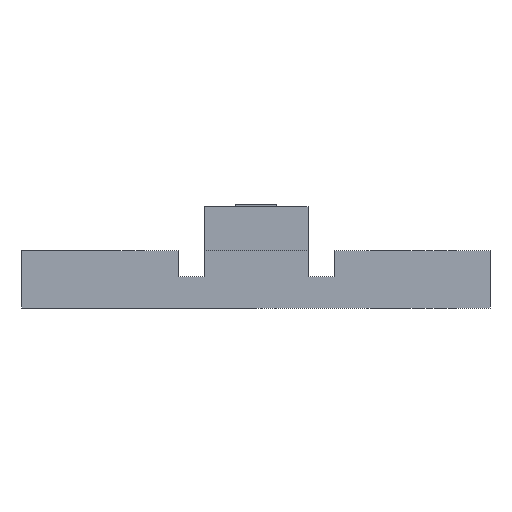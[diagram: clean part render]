
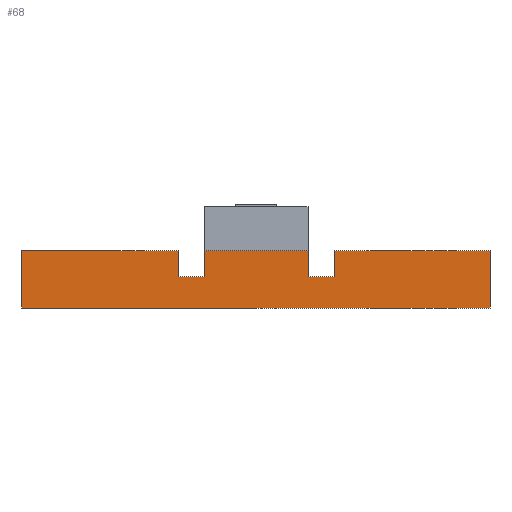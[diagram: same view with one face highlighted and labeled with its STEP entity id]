
A CAD part, front view. The second image highlights one B-rep face of the part: STEP entity #68.
In plain terms, the highlighted planar face has unit normal (0, -1, 0).
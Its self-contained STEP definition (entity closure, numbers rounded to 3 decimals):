
#68=ADVANCED_FACE('',(#374),#376,.T.);
#374=FACE_BOUND('',#375,.T.);
#375=EDGE_LOOP('',(#624,#625,#626,#627,#628,#629,#630,#631,#632,#633,#634,#635));
#376=PLANE('',#377);
#377=AXIS2_PLACEMENT_3D('',#378,#379,#380);
#378=CARTESIAN_POINT('',(-9.,-3.,0.));
#379=DIRECTION('',(0.,-1.,0.));
#380=DIRECTION('',(1.,0.,0.));
#624=ORIENTED_EDGE('',*,*,#792,.T.);
#625=ORIENTED_EDGE('',*,*,#793,.T.);
#626=ORIENTED_EDGE('',*,*,#794,.F.);
#627=ORIENTED_EDGE('',*,*,#795,.T.);
#628=ORIENTED_EDGE('',*,*,#796,.T.);
#629=ORIENTED_EDGE('',*,*,#797,.T.);
#630=ORIENTED_EDGE('',*,*,#798,.F.);
#631=ORIENTED_EDGE('',*,*,#799,.F.);
#632=ORIENTED_EDGE('',*,*,#800,.T.);
#633=ORIENTED_EDGE('',*,*,#801,.T.);
#634=ORIENTED_EDGE('',*,*,#802,.F.);
#635=ORIENTED_EDGE('',*,*,#803,.T.);
#792=EDGE_CURVE('',#876,#877,#878,.F.);
#793=EDGE_CURVE('',#877,#879,#880,.F.);
#794=EDGE_CURVE('',#881,#879,#882,.T.);
#795=EDGE_CURVE('',#881,#883,#884,.F.);
#796=EDGE_CURVE('',#883,#885,#886,.F.);
#797=EDGE_CURVE('',#885,#887,#888,.F.);
#798=EDGE_CURVE('',#889,#887,#890,.T.);
#799=EDGE_CURVE('',#891,#889,#892,.T.);
#800=EDGE_CURVE('',#891,#893,#894,.T.);
#801=EDGE_CURVE('',#893,#895,#896,.T.);
#802=EDGE_CURVE('',#897,#895,#898,.T.);
#803=EDGE_CURVE('',#897,#876,#899,.F.);
#876=VERTEX_POINT('',#1016);
#877=VERTEX_POINT('',#1017);
#878=LINE('',#1018,#1019);
#879=VERTEX_POINT('',#1021);
#880=LINE('',#1022,#1023);
#881=VERTEX_POINT('',#1025);
#882=LINE('',#1026,#1027);
#883=VERTEX_POINT('',#1029);
#884=LINE('',#1030,#1031);
#885=VERTEX_POINT('',#1033);
#886=LINE('',#1034,#1035);
#887=VERTEX_POINT('',#1037);
#888=LINE('',#1038,#1039);
#889=VERTEX_POINT('',#1041);
#890=LINE('',#1042,#1043);
#891=VERTEX_POINT('',#1045);
#892=LINE('',#1046,#1047);
#893=VERTEX_POINT('',#1049);
#894=LINE('',#1050,#1051);
#895=VERTEX_POINT('',#1053);
#896=LINE('',#1054,#1055);
#897=VERTEX_POINT('',#1057);
#898=LINE('',#1058,#1059);
#899=LINE('',#1061,#1062);
#1016=CARTESIAN_POINT('',(3.,-3.,1.2));
#1017=CARTESIAN_POINT('',(2.,-3.,1.2));
#1018=CARTESIAN_POINT('',(2.,-3.,1.2));
#1019=VECTOR('',#1020,1.);
#1020=DIRECTION('',(1.,0.,0.));
#1021=CARTESIAN_POINT('',(2.,-3.,2.2));
#1022=CARTESIAN_POINT('',(2.,-3.,2.2));
#1023=VECTOR('',#1024,1.);
#1024=DIRECTION('',(0.,0.,-1.));
#1025=CARTESIAN_POINT('',(-2.,-3.,2.2));
#1026=CARTESIAN_POINT('',(-2.,-3.,2.2));
#1027=VECTOR('',#1028,1.);
#1028=DIRECTION('',(1.,0.,0.));
#1029=CARTESIAN_POINT('',(-2.,-3.,1.2));
#1030=CARTESIAN_POINT('',(-2.,-3.,1.2));
#1031=VECTOR('',#1032,1.);
#1032=DIRECTION('',(0.,0.,1.));
#1033=CARTESIAN_POINT('',(-3.,-3.,1.2));
#1034=CARTESIAN_POINT('',(-3.,-3.,1.2));
#1035=VECTOR('',#1036,1.);
#1036=DIRECTION('',(1.,0.,0.));
#1037=CARTESIAN_POINT('',(-3.,-3.,2.2));
#1038=CARTESIAN_POINT('',(-3.,-3.,2.2));
#1039=VECTOR('',#1040,1.);
#1040=DIRECTION('',(0.,0.,-1.));
#1041=CARTESIAN_POINT('',(-9.,-3.,2.2));
#1042=CARTESIAN_POINT('',(-9.,-3.,2.2));
#1043=VECTOR('',#1044,1.);
#1044=DIRECTION('',(1.,0.,0.));
#1045=CARTESIAN_POINT('',(-9.,-3.,0.));
#1046=CARTESIAN_POINT('',(-9.,-3.,0.));
#1047=VECTOR('',#1048,1.);
#1048=DIRECTION('',(0.,0.,1.));
#1049=CARTESIAN_POINT('',(9.,-3.,0.));
#1050=CARTESIAN_POINT('',(-9.,-3.,0.));
#1051=VECTOR('',#1052,1.);
#1052=DIRECTION('',(1.,0.,0.));
#1053=CARTESIAN_POINT('',(9.,-3.,2.2));
#1054=CARTESIAN_POINT('',(9.,-3.,0.));
#1055=VECTOR('',#1056,1.);
#1056=DIRECTION('',(0.,0.,1.));
#1057=CARTESIAN_POINT('',(3.,-3.,2.2));
#1058=CARTESIAN_POINT('',(3.,-3.,2.2));
#1059=VECTOR('',#1060,1.);
#1060=DIRECTION('',(1.,0.,0.));
#1061=CARTESIAN_POINT('',(3.,-3.,1.2));
#1062=VECTOR('',#1063,1.);
#1063=DIRECTION('',(0.,0.,1.));
